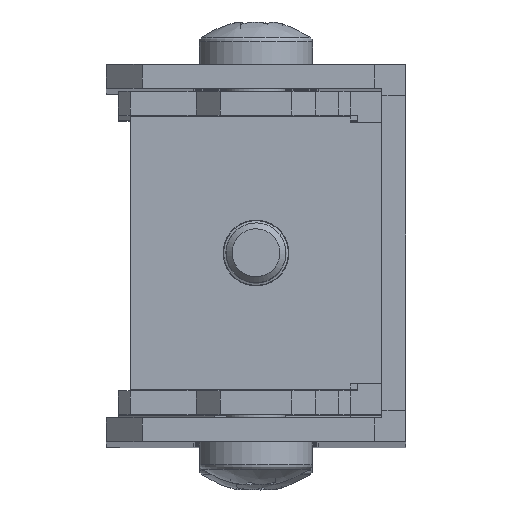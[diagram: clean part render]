
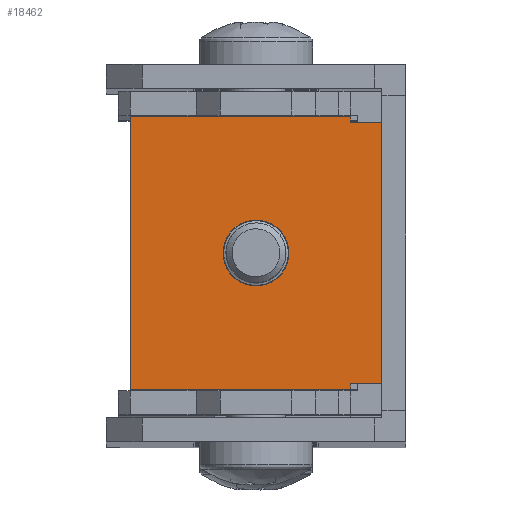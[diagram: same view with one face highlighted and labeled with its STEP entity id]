
A CAD part, top view. The second image highlights one B-rep face of the part: STEP entity #18462.
In plain terms, the highlighted planar face has unit normal (0, 0, 1) as drawn and (0, -1, 0) by its records, which use the part's own axes.
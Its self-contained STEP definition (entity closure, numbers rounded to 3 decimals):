
#17541 = VERTEX_POINT('',#17542);
#17542 = CARTESIAN_POINT('',(-10.9,-16.5,0.));
#17548 = EDGE_CURVE('',#17549,#17541,#17551,.T.);
#17549 = VERTEX_POINT('',#17550);
#17550 = CARTESIAN_POINT('',(10.9,-16.5,0.));
#17551 = LINE('',#17552,#17553);
#17552 = CARTESIAN_POINT('',(0.,-16.5,-0.));
#17553 = VECTOR('',#17554,1.);
#17554 = DIRECTION('',(-1.,0.,0.));
#18403 = VERTEX_POINT('',#18404);
#18404 = CARTESIAN_POINT('',(10.9,-16.5,-2.6));
#18419 = EDGE_CURVE('',#18403,#17549,#18420,.T.);
#18420 = LINE('',#18421,#18422);
#18421 = CARTESIAN_POINT('',(10.9,-16.5,-2.6));
#18422 = VECTOR('',#18423,1.);
#18423 = DIRECTION('',(-0.,0.,1.));
#18443 = VERTEX_POINT('',#18444);
#18444 = CARTESIAN_POINT('',(-10.9,-16.5,-2.6));
#18450 = EDGE_CURVE('',#18443,#17541,#18451,.T.);
#18451 = LINE('',#18452,#18453);
#18452 = CARTESIAN_POINT('',(-10.9,-16.5,0.));
#18453 = VECTOR('',#18454,1.);
#18454 = DIRECTION('',(0.,0.,1.));
#18462 = ADVANCED_FACE('',(#18463,#18474),#18517,.T.);
#18463 = FACE_BOUND('',#18464,.T.);
#18464 = EDGE_LOOP('',(#18465));
#18465 = ORIENTED_EDGE('',*,*,#18466,.T.);
#18466 = EDGE_CURVE('',#18467,#18467,#18469,.T.);
#18467 = VERTEX_POINT('',#18468);
#18468 = CARTESIAN_POINT('',(0.,-16.5,-7.75));
#18469 = CIRCLE('',#18470,2.75);
#18470 = AXIS2_PLACEMENT_3D('',#18471,#18472,#18473);
#18471 = CARTESIAN_POINT('',(0.,-16.5,-10.5));
#18472 = DIRECTION('',(0.,1.,0.));
#18473 = DIRECTION('',(0.,0.,1.));
#18474 = FACE_BOUND('',#18475,.T.);
#18475 = EDGE_LOOP('',(#18476,#18486,#18494,#18500,#18501,#18502,#18503,
    #18511));
#18476 = ORIENTED_EDGE('',*,*,#18477,.F.);
#18477 = EDGE_CURVE('',#18478,#18480,#18482,.T.);
#18478 = VERTEX_POINT('',#18479);
#18479 = CARTESIAN_POINT('',(11.4,-16.5,-21.));
#18480 = VERTEX_POINT('',#18481);
#18481 = CARTESIAN_POINT('',(-11.4,-16.5,-21.));
#18482 = LINE('',#18483,#18484);
#18483 = CARTESIAN_POINT('',(-10.9,-16.5,-21.));
#18484 = VECTOR('',#18485,1.);
#18485 = DIRECTION('',(-1.,0.,0.));
#18486 = ORIENTED_EDGE('',*,*,#18487,.F.);
#18487 = EDGE_CURVE('',#18488,#18478,#18490,.T.);
#18488 = VERTEX_POINT('',#18489);
#18489 = CARTESIAN_POINT('',(11.4,-16.5,-2.6));
#18490 = LINE('',#18491,#18492);
#18491 = CARTESIAN_POINT('',(11.4,-16.5,-2.6));
#18492 = VECTOR('',#18493,1.);
#18493 = DIRECTION('',(0.,0.,-1.));
#18494 = ORIENTED_EDGE('',*,*,#18495,.F.);
#18495 = EDGE_CURVE('',#18403,#18488,#18496,.T.);
#18496 = LINE('',#18497,#18498);
#18497 = CARTESIAN_POINT('',(10.9,-16.5,-2.6));
#18498 = VECTOR('',#18499,1.);
#18499 = DIRECTION('',(1.,0.,0.));
#18500 = ORIENTED_EDGE('',*,*,#18419,.T.);
#18501 = ORIENTED_EDGE('',*,*,#17548,.T.);
#18502 = ORIENTED_EDGE('',*,*,#18450,.F.);
#18503 = ORIENTED_EDGE('',*,*,#18504,.T.);
#18504 = EDGE_CURVE('',#18443,#18505,#18507,.T.);
#18505 = VERTEX_POINT('',#18506);
#18506 = CARTESIAN_POINT('',(-11.4,-16.5,-2.6));
#18507 = LINE('',#18508,#18509);
#18508 = CARTESIAN_POINT('',(-10.9,-16.5,-2.6));
#18509 = VECTOR('',#18510,1.);
#18510 = DIRECTION('',(-1.,0.,0.));
#18511 = ORIENTED_EDGE('',*,*,#18512,.T.);
#18512 = EDGE_CURVE('',#18505,#18480,#18513,.T.);
#18513 = LINE('',#18514,#18515);
#18514 = CARTESIAN_POINT('',(-11.4,-16.5,-2.6));
#18515 = VECTOR('',#18516,1.);
#18516 = DIRECTION('',(0.,0.,-1.));
#18517 = PLANE('',#18518);
#18518 = AXIS2_PLACEMENT_3D('',#18519,#18520,#18521);
#18519 = CARTESIAN_POINT('',(0.,-16.5,
    0.));
#18520 = DIRECTION('',(0.,-1.,0.));
#18521 = DIRECTION('',(0.,0.,-1.));
